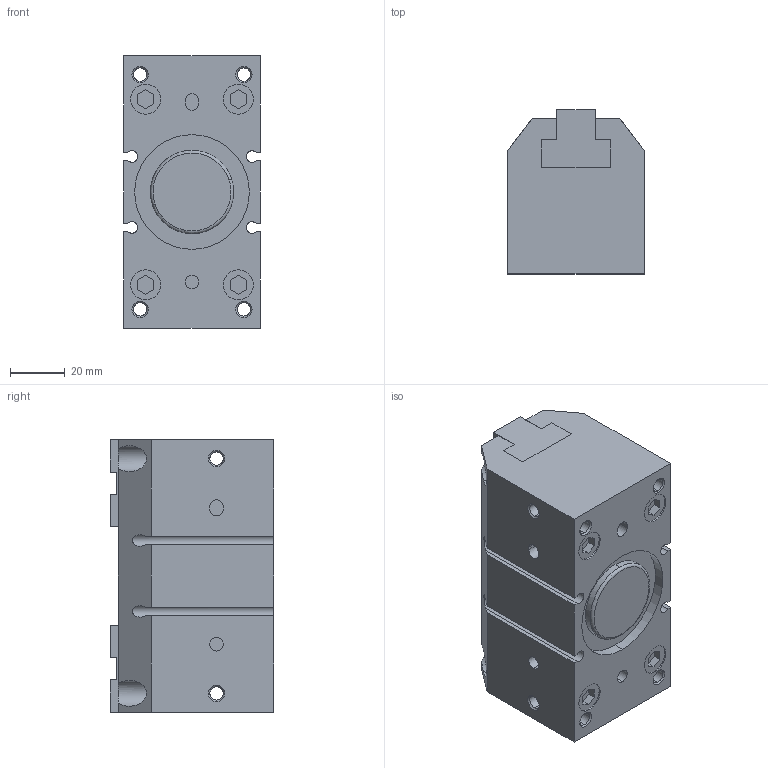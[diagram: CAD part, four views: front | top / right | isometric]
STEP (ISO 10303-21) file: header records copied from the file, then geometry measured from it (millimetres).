
FILE_DESCRIPTION (( 'STEP AP203' ), '1' );
FILE_NAME ('SDW40_0_.STEP', '2022-10-17T02:10:51', ( '' ), ( '' ), 'SwSTEP 2.0', 'SolidWorks 2018', '' );
FILE_SCHEMA (( 'CONFIG_CONTROL_DESIGN' ));
Length unit declared in the file: millimetre
Products named in the file (3): SDW40_0_; SDW40-06; SDW40-01
Assembly tree (3 placements, depth 2):
  SDW40_0_
    SDW40-01  x2
    SDW40-06
Bounding box: 50 x 60 x 100 mm (x, y, z)
Volume: 257835.8 mm3; surface area: 46360.9 mm2
Topology: 3 solids, 3 shells, 262 faces, 648 edges, 420 vertices
Faces by surface type: plane 152, cylinder 84, cone 24, torus 2
Entity records: 7773 total; most frequent: CARTESIAN_POINT 1730, DIRECTION 1184, ORIENTED_EDGE 1168, EDGE_CURVE 584, LINE 396, VECTOR 396, AXIS2_PLACEMENT_3D 394, VERTEX_POINT 378
